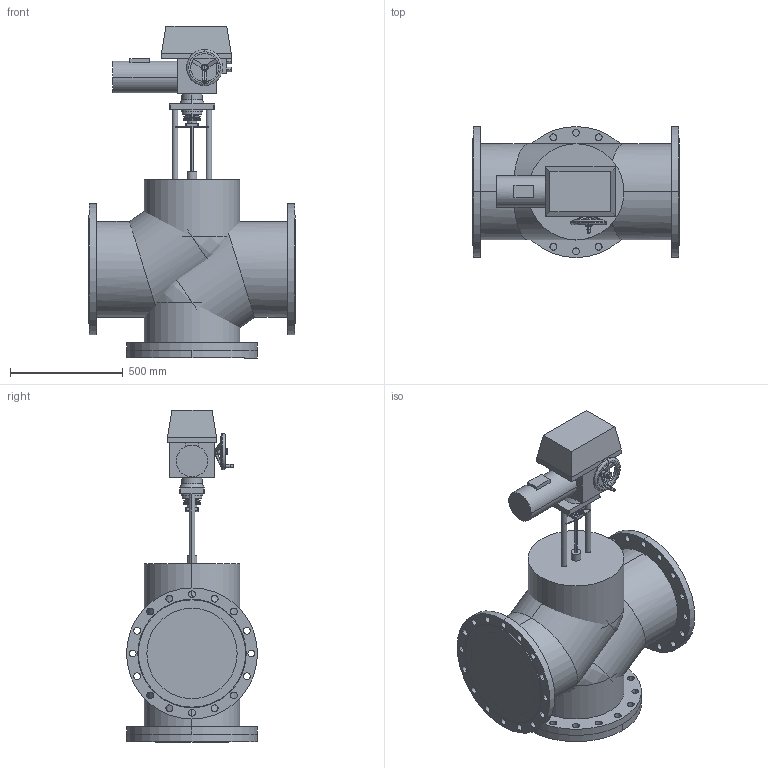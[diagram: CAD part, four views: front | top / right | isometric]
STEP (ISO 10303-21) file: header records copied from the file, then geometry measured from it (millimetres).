
FILE_DESCRIPTION(/* description */ (''),/* implementation_level */ '2;1');
FILE_NAME(/* name */ 'ТРК DN400 PN 1.6 МПа Regada MT',/* time_stamp */ '2026-07-14T23:17:48+03:00',/* author */ (''),/* organization */ (''),/* preprocessor_version */ 'ST-DEVELOPER v20',/* originating_system */ '',/* authorisation */ '');
FILE_SCHEMA (('AP242_MANAGED_MODEL_BASED_3D_ENGINEERING_MIM_LF { 1 0 10303 442 1 1 4 }'));
Length unit declared in the file: millimetre
Products named in the file (14): TopLevelAssembly; Выдавливание; Модификатор; Модификатор_1; Выдавливание_
1; Выдавливание_
2; Вращение; Выдавливание_
3; Выдавливание_
4; Привод_Regada MT; Переход; Объемная геометрия 
присоединена; Полый Выдавливание; Объемная геометрия 
присоединена_1
Assembly tree (13 placements, depth 2):
  TopLevelAssembly
    Выдавливание
    Модификатор
    Модификатор_1
    Выдавливание_
1
    Выдавливание_
2
    Вращение
    Выдавливание_
3
    Выдавливание_
4
    Привод_Regada MT
    Переход
    Объемная геометрия 
присоединена
    Полый Выдавливание
    Объемная геометрия 
присоединена_1
Bounding box: 914 x 580 x 1470 mm (x, y, z)
Volume: 317578719.7 mm3; surface area: 7573298.3 mm2
Topology: 33 solids, 33 shells, 359 faces, 812 edges, 508 vertices
Faces by surface type: cylinder 184, plane 123, bspline 48, cone 4
Entity records: 11613 total; most frequent: CARTESIAN_POINT 2632, DIRECTION 1886, ORIENTED_EDGE 1604, EDGE_CURVE 802, AXIS2_PLACEMENT_3D 770, VERTEX_POINT 508, EDGE_LOOP 466, CIRCLE 424
